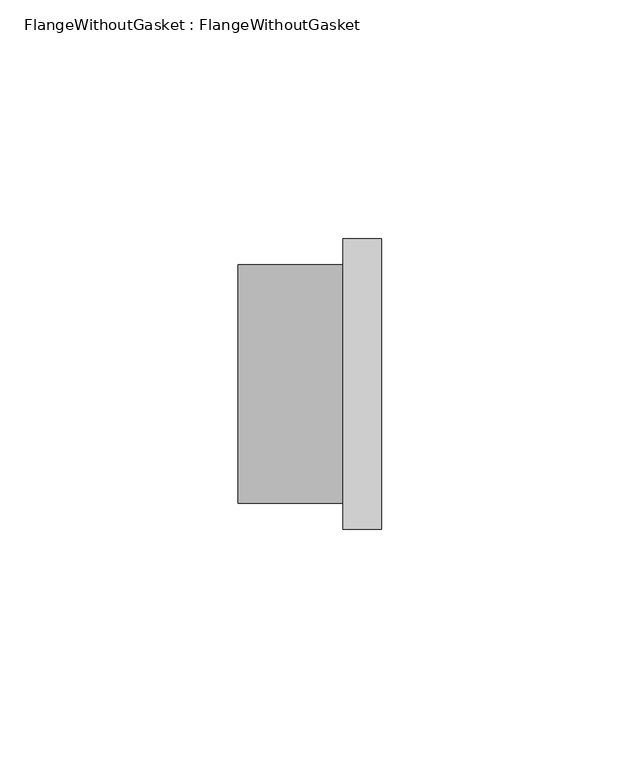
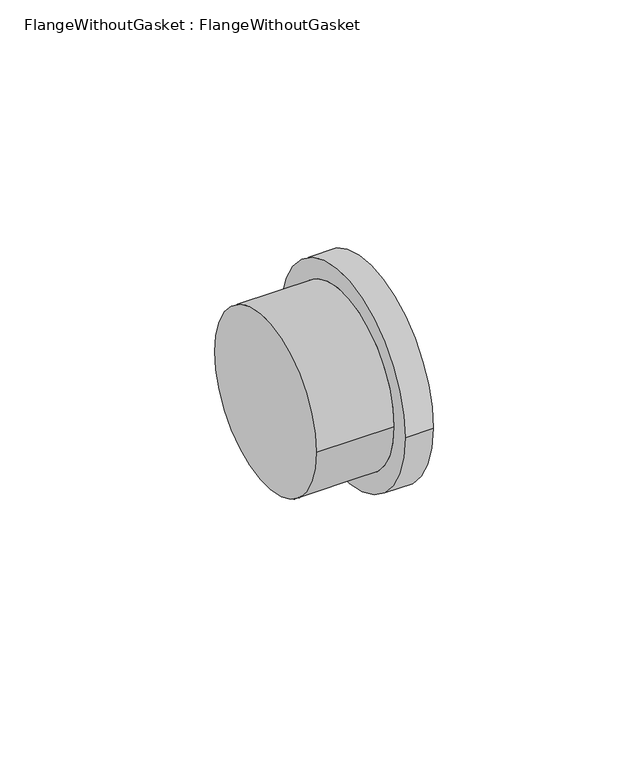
"""IFC4 building model written with IfcOpenShell, lengths in millimetres: pipe fitting geometry, FlangeWithoutGasket : FlangeWithoutGasket."""

from ifc_helpers import new_model, si_unit, frame, origin, place, context, project, spatial, circle_curve, source, transform, mapped, element, save
from ifc_brep_helpers import plane_surface, cylinder_surface, advanced_brep


def flangewithoutgasket_flangewithoutgasket_c11ec761(model_context):
    return source(origin(), model_context, "Body", "AdvancedBrep", [
        advanced_brep(
        [(15.0, 30.5, 0.0), (15.0, -30.5, 0.0), (7.0, 30.5, 0.0), (7.0, -30.5, 0.0), (7.0, 25.0, 0.0), (7.0, -25.0, 0.0), (-15.0, -25.0, 0.0), (-15.0, 25.0, 0.0)],
        [
            (0, 1, circle_curve(frame((15.0, 0.0, 0.0), z_axis=(1.0, 0.0, 0.0), x_axis=(0.0, -1.0, 0.0)), 30.5)),
            (1, 0, circle_curve(frame((15.0, 0.0, 0.0), z_axis=(1.0, 0.0, 0.0), x_axis=(0.0, -1.0, 0.0)), 30.5)),
            (2, 3, circle_curve(frame((7.0, 0.0, 0.0), z_axis=(-1.0, 0.0, 0.0), x_axis=(0.0, -1.0, 0.0)), 30.5)),
            (3, 2, circle_curve(frame((7.0, 0.0, 0.0), z_axis=(-1.0, 0.0, 0.0), x_axis=(0.0, -1.0, 0.0)), 30.5)),
            (4, 5, circle_curve(frame((7.0, 0.0, 0.0), z_axis=(1.0, 0.0, 0.0), x_axis=(0.0, 1.0, 0.0)), 25.0)),
            (5, 4, circle_curve(frame((7.0, 0.0, 0.0), z_axis=(1.0, 0.0, 0.0), x_axis=(0.0, 1.0, 0.0)), 25.0)),
            (0, 2),
            (3, 1),
            (6, 7, circle_curve(frame((-15.0, 0.0, 0.0), z_axis=(-1.0, 0.0, 0.0), x_axis=(0.0, 1.0, 0.0)), 25.0)),
            (7, 6, circle_curve(frame((-15.0, 0.0, 0.0), z_axis=(-1.0, 0.0, 0.0), x_axis=(0.0, 1.0, 0.0)), 25.0)),
            (6, 5),
            (4, 7),
        ],
        [
            plane_surface(frame((15.0, 0.0, 0.0), z_axis=(1.0, 0.0, 0.0), x_axis=(0.0, 0.0, 1.0))),
            plane_surface(frame((7.0, 0.0, 0.0), z_axis=(-1.0, 0.0, 0.0), x_axis=(0.0, 0.0, 1.0))),
            cylinder_surface(frame((15.0, 0.0, 0.0), z_axis=(1.0, 0.0, 0.0), x_axis=(0.0, -1.0, 0.0)), 30.5),
            plane_surface(frame((-15.0, 0.0, 0.0), z_axis=(-1.0, 0.0, 0.0), x_axis=(0.0, 0.0, 1.0))),
            cylinder_surface(frame((-15.0, 0.0, 0.0), z_axis=(-1.0, 0.0, 0.0), x_axis=(0.0, 1.0, 0.0)), 25.0),
        ],
        [
            (0, [[1, 2]]),
            (1, [[3, 4], [5, 6]]),
            (2, [[-1, 7, -4, 8]]),
            (2, [[-2, -8, -3, -7]]),
            (3, [[9, 10]]),
            (4, [[-9, 11, -5, 12]]),
            (4, [[-10, -12, -6, -11]]),
        ],
    ),
    ])


if __name__ == "__main__":
    model = new_model("IFC4")
    model_context = context("Model", 3, world=origin())
    ifc_project = project(units=[si_unit("LENGTHUNIT", "METRE", prefix="MILLI")], contexts=[model_context])
    site = spatial("IfcSite", under=ifc_project)
    building = spatial("IfcBuilding", under=site)
    placement = place(None, origin())
    flangewithoutgasket_flangewithoutgasket_shape = flangewithoutgasket_flangewithoutgasket_c11ec761(model_context)
    element("IfcPipeFitting", 1, ObjectType="FlangeWithoutGasket : FlangeWithoutGasket", at=placement, inside=building, context=model_context, shape_type="MappedRepresentation", body=[
        mapped(flangewithoutgasket_flangewithoutgasket_shape, transform((0.0, 0.0, 0.0), x_axis=(1.0, 0.0, 0.0), y_axis=(0.0, 1.0, 0.0), z_axis=(0.0, 0.0, 1.0))),
    ])
    save(model, "model.ifc")
